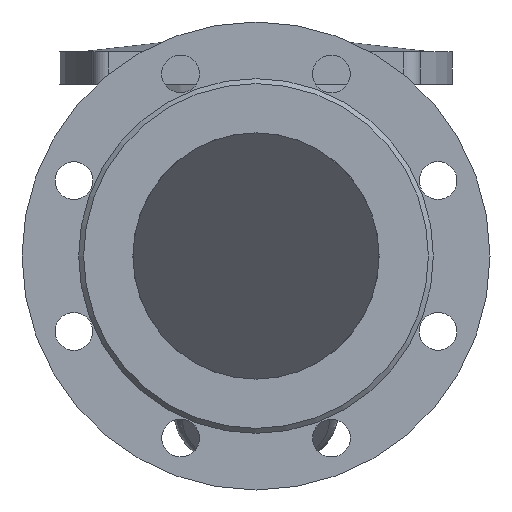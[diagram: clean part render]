
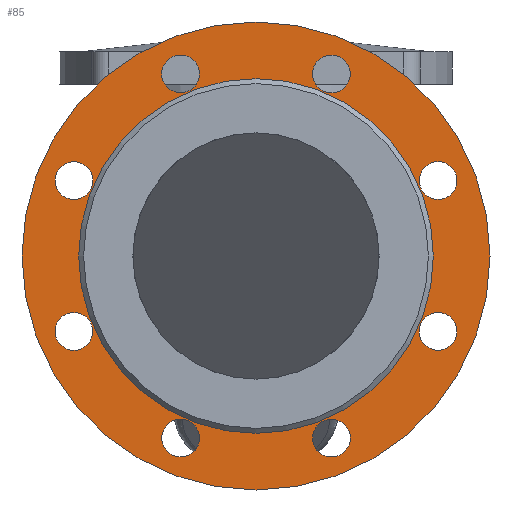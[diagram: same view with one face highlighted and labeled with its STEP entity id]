
A CAD part, front view. The second image highlights one B-rep face of the part: STEP entity #85.
In plain terms, the highlighted planar face has unit normal (0, -1, 0).
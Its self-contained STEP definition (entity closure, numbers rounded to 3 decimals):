
#85=ADVANCED_FACE('',(#687,#689,#691,#693,#695,#697,#699,#701,#703,#705),#707,.T.);
#687=FACE_BOUND('',#688,.T.);
#688=EDGE_LOOP('',(#2462));
#689=FACE_BOUND('',#690,.T.);
#690=EDGE_LOOP('',(#2463));
#691=FACE_BOUND('',#692,.T.);
#692=EDGE_LOOP('',(#2464));
#693=FACE_BOUND('',#694,.T.);
#694=EDGE_LOOP('',(#2465));
#695=FACE_BOUND('',#696,.T.);
#696=EDGE_LOOP('',(#2466));
#697=FACE_BOUND('',#698,.T.);
#698=EDGE_LOOP('',(#2467));
#699=FACE_BOUND('',#700,.T.);
#700=EDGE_LOOP('',(#2468));
#701=FACE_BOUND('',#702,.T.);
#702=EDGE_LOOP('',(#2469));
#703=FACE_BOUND('',#704,.T.);
#704=EDGE_LOOP('',(#2470));
#705=FACE_BOUND('',#706,.T.);
#706=EDGE_LOOP('',(#2471));
#707=PLANE('',#708);
#708=AXIS2_PLACEMENT_3D('',#709,#710,#711);
#709=CARTESIAN_POINT('',(0.,-175.,0.));
#710=DIRECTION('',(0.,-1.,0.));
#711=DIRECTION('',(0.,0.,1.));
#2462=ORIENTED_EDGE('',*,*,#2730,.F.);
#2463=ORIENTED_EDGE('',*,*,#2731,.T.);
#2464=ORIENTED_EDGE('',*,*,#2732,.T.);
#2465=ORIENTED_EDGE('',*,*,#2733,.T.);
#2466=ORIENTED_EDGE('',*,*,#2734,.T.);
#2467=ORIENTED_EDGE('',*,*,#2735,.T.);
#2468=ORIENTED_EDGE('',*,*,#2736,.T.);
#2469=ORIENTED_EDGE('',*,*,#2737,.T.);
#2470=ORIENTED_EDGE('',*,*,#2729,.T.);
#2471=ORIENTED_EDGE('',*,*,#2738,.T.);
#2729=EDGE_CURVE('',#2863,#2863,#2864,.T.);
#2730=EDGE_CURVE('',#2865,#2865,#2866,.T.);
#2731=EDGE_CURVE('',#2867,#2867,#2868,.F.);
#2732=EDGE_CURVE('',#2869,#2869,#2870,.F.);
#2733=EDGE_CURVE('',#2871,#2871,#2872,.F.);
#2734=EDGE_CURVE('',#2873,#2873,#2874,.F.);
#2735=EDGE_CURVE('',#2875,#2875,#2876,.F.);
#2736=EDGE_CURVE('',#2877,#2877,#2878,.F.);
#2737=EDGE_CURVE('',#2879,#2879,#2880,.F.);
#2738=EDGE_CURVE('',#2881,#2881,#2882,.F.);
#2863=VERTEX_POINT('',#3102);
#2864=CIRCLE('',#3103,108.);
#2865=VERTEX_POINT('',#3107);
#2866=CIRCLE('',#3108,142.5);
#2867=VERTEX_POINT('',#3112);
#2868=CIRCLE('',#3113,11.5);
#2869=VERTEX_POINT('',#3117);
#2870=CIRCLE('',#3118,11.5);
#2871=VERTEX_POINT('',#3122);
#2872=CIRCLE('',#3123,11.5);
#2873=VERTEX_POINT('',#3127);
#2874=CIRCLE('',#3128,11.5);
#2875=VERTEX_POINT('',#3132);
#2876=CIRCLE('',#3133,11.5);
#2877=VERTEX_POINT('',#3137);
#2878=CIRCLE('',#3138,11.5);
#2879=VERTEX_POINT('',#3142);
#2880=CIRCLE('',#3143,11.5);
#2881=VERTEX_POINT('',#3147);
#2882=CIRCLE('',#3148,11.5);
#3102=CARTESIAN_POINT('',(0.,-175.,108.));
#3103=AXIS2_PLACEMENT_3D('',#3104,#3105,#3106);
#3104=CARTESIAN_POINT('',(0.,-175.,0.));
#3105=DIRECTION('',(0.,1.,0.));
#3106=DIRECTION('',(0.,0.,1.));
#3107=CARTESIAN_POINT('',(0.,-175.,142.5));
#3108=AXIS2_PLACEMENT_3D('',#3109,#3110,#3111);
#3109=CARTESIAN_POINT('',(0.,-175.,0.));
#3110=DIRECTION('',(0.,1.,0.));
#3111=DIRECTION('',(0.,0.,1.));
#3112=CARTESIAN_POINT('',(54.054,-175.,102.734));
#3113=AXIS2_PLACEMENT_3D('',#3114,#3115,#3116);
#3114=CARTESIAN_POINT('',(45.922,-175.,110.866));
#3115=DIRECTION('',(0.,-1.,0.));
#3116=DIRECTION('',(0.707,0.,-0.707));
#3117=CARTESIAN_POINT('',(110.866,-175.,34.422));
#3118=AXIS2_PLACEMENT_3D('',#3119,#3120,#3121);
#3119=CARTESIAN_POINT('',(110.866,-175.,45.922));
#3120=DIRECTION('',(0.,-1.,0.));
#3121=DIRECTION('',(0.,0.,-1.));
#3122=CARTESIAN_POINT('',(102.734,-175.,-54.054));
#3123=AXIS2_PLACEMENT_3D('',#3124,#3125,#3126);
#3124=CARTESIAN_POINT('',(110.866,-175.,-45.922));
#3125=DIRECTION('',(0.,-1.,0.));
#3126=DIRECTION('',(-0.707,0.,-0.707));
#3127=CARTESIAN_POINT('',(34.422,-175.,-110.866));
#3128=AXIS2_PLACEMENT_3D('',#3129,#3130,#3131);
#3129=CARTESIAN_POINT('',(45.922,-175.,-110.866));
#3130=DIRECTION('',(0.,-1.,0.));
#3131=DIRECTION('',(-1.,0.,0.));
#3132=CARTESIAN_POINT('',(-54.054,-175.,-102.734));
#3133=AXIS2_PLACEMENT_3D('',#3134,#3135,#3136);
#3134=CARTESIAN_POINT('',(-45.922,-175.,-110.866));
#3135=DIRECTION('',(0.,-1.,0.));
#3136=DIRECTION('',(-0.707,0.,0.707));
#3137=CARTESIAN_POINT('',(-110.866,-175.,-34.422));
#3138=AXIS2_PLACEMENT_3D('',#3139,#3140,#3141);
#3139=CARTESIAN_POINT('',(-110.866,-175.,-45.922));
#3140=DIRECTION('',(0.,-1.,0.));
#3141=DIRECTION('',(0.,0.,1.));
#3142=CARTESIAN_POINT('',(-102.734,-175.,54.054));
#3143=AXIS2_PLACEMENT_3D('',#3144,#3145,#3146);
#3144=CARTESIAN_POINT('',(-110.866,-175.,45.922));
#3145=DIRECTION('',(0.,-1.,0.));
#3146=DIRECTION('',(0.707,0.,0.707));
#3147=CARTESIAN_POINT('',(-34.422,-175.,110.866));
#3148=AXIS2_PLACEMENT_3D('',#3149,#3150,#3151);
#3149=CARTESIAN_POINT('',(-45.922,-175.,110.866));
#3150=DIRECTION('',(0.,-1.,0.));
#3151=DIRECTION('',(1.,0.,0.));
